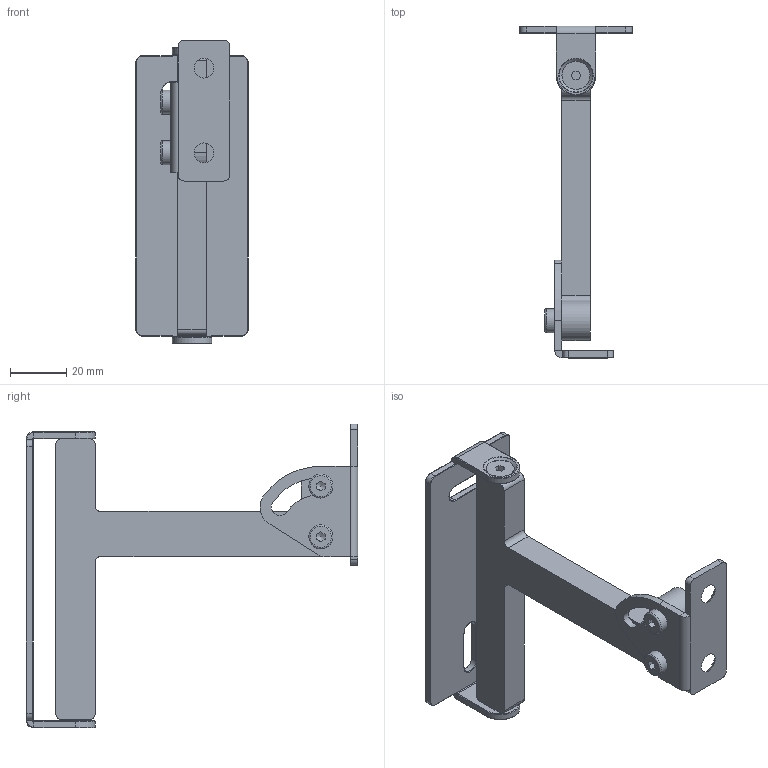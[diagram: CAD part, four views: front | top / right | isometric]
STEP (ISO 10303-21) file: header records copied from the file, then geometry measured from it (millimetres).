
FILE_DESCRIPTION(/* description */ (''),/* implementation_level */ '2;1');
FILE_NAME(/* name */ 'LB WH 40.stp',/* time_stamp */ '2024-10-17T14:26:12+02:00',/* author */ ('d.streicher'),/* organization */ (''),/* preprocessor_version */ 'ST-DEVELOPER v20',/* originating_system */ 'Autodesk Inventor 2025',/* authorisation */ '');
FILE_SCHEMA (('AUTOMOTIVE_DESIGN { 1 0 10303 214 3 1 1 }'));
Length unit declared in the file: millimetre
Products named in the file (7): LB WH 40 black; LB WH 40 W; LB WH 40 M; LB WH 40 L; DIN 7991 - M5x12; DIN 7991 - M5x8; DIN 7984 - M5 x 12
Assembly tree (7 placements, depth 2):
  LB WH 40 black
    LB WH 40 W
    LB WH 40 M
    LB WH 40 L
    DIN 7991 - M5x12
    DIN 7991 - M5x8
    DIN 7984 - M5 x 12  x2
Bounding box: 40 x 117.64 x 107.75 mm (x, y, z)
Volume: 44341.4 mm3; surface area: 25724.5 mm2
Topology: 7 solids, 7 shells, 247 faces, 592 edges, 363 vertices
Faces by surface type: plane 99, cylinder 85, torus 37, cone 18, bspline 8
Full cylindrical faces by diameter (mm): 5 x8, 6 x1, 8.5 x2, 10 x2
Entity records: 7278 total; most frequent: CARTESIAN_POINT 1455, DIRECTION 1264, ORIENTED_EDGE 1106, EDGE_CURVE 553, AXIS2_PLACEMENT_3D 489, VERTEX_POINT 339, LINE 286, VECTOR 286
